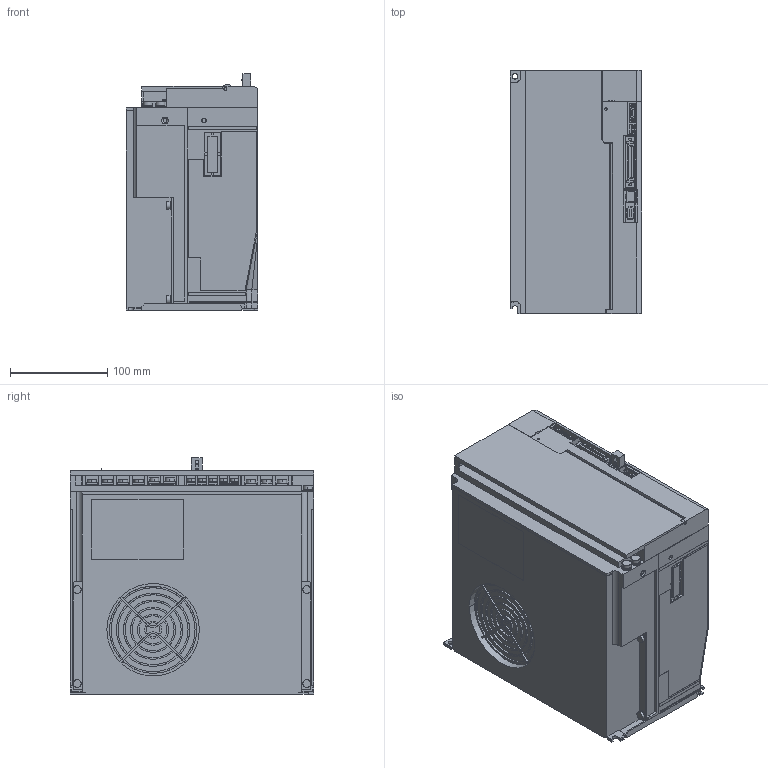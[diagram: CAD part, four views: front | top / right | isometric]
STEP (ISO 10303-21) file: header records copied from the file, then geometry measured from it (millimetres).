
FILE_DESCRIPTION (( 'STEP AP203' ), '1' );
FILE_NAME ('sgdv_170d0_a.STEP', '2008-06-17T08:17:15', ( 'T' ), ( 'T' ), 'SwSTEP 2.0', 'SolidWorks 2006052', '' );
FILE_SCHEMA (( 'CONFIG_CONTROL_DESIGN' ));
Length unit declared in the file: millimetre
Products named in the file (8): sgdv_170d0_a_terminal; sgdv_170d0_a_terminal2; sgdv_170d0_a_cover3; sgdv_170d0_a; sgdv_170d0_a_base; sgdv_170d0_a_cover; sgdv_170d0_a_cover2; sgdv_170d0_a_connector
Assembly tree (8 placements, depth 2):
  sgdv_170d0_a
    sgdv_170d0_a_terminal2
    sgdv_170d0_a_cover
    sgdv_170d0_a_cover2  x2
    sgdv_170d0_a_cover3
    sgdv_170d0_a_terminal
    sgdv_170d0_a_connector
    sgdv_170d0_a_base
Bounding box: 135.6 x 250 x 243 mm (x, y, z)
Volume: 7170608.9 mm3; surface area: 350676.9 mm2
Topology: 8 solids, 8 shells, 1931 faces, 5144 edges, 3370 vertices
Faces by surface type: plane 1599, cylinder 321, cone 8, bspline 2, sphere 1
Entity records: 59706 total; most frequent: CARTESIAN_POINT 10415, ORIENTED_EDGE 10180, DIRECTION 9692, EDGE_CURVE 5090, LINE 4310, VECTOR 4310, VERTEX_POINT 3334, AXIS2_PLACEMENT_3D 2691
